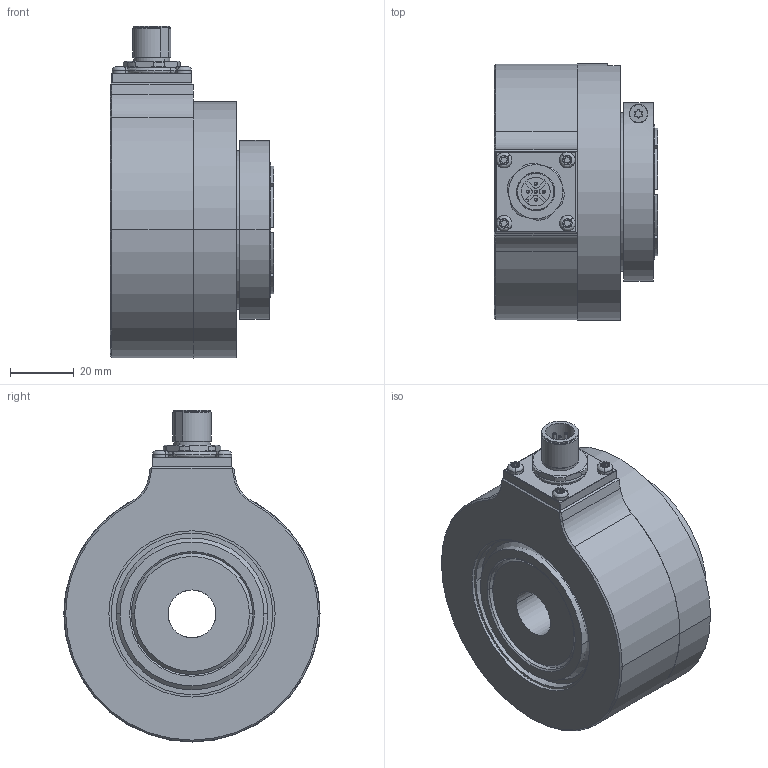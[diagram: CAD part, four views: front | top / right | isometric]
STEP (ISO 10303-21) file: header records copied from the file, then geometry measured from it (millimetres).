
FILE_DESCRIPTION (( 'STEP AP203' ), '1' );
FILE_NAME ('K80I.OXX.XXXXX.XH20815.6XRC6.step', '2025-12-09T09:22:41', ( '' ), ( '' ), 'SwSTEP 2.0', 'SolidWorks 2021', '' );
FILE_SCHEMA (( 'CONFIG_CONTROL_DESIGN' ));
Length unit declared in the file: millimetre
Products named in the file (1): K80I.OXX.XXXXX.XH20815.6XRC6
Bounding box: 51.2 x 80.15 x 103.88 mm (x, y, z)
Surface area: 71284.2 mm2 (no closed solid volume)
Topology: 0 solids, 13 shells, 524 faces, 1339 edges, 860 vertices
Faces by surface type: cylinder 226, plane 205, cone 59, bspline 24, torus 10
Entity records: 18106 total; most frequent: CARTESIAN_POINT 5197, DIRECTION 2788, ORIENTED_EDGE 2646, EDGE_CURVE 1331, AXIS2_PLACEMENT_3D 1091, VERTEX_POINT 860, VECTOR 606, LINE 606
